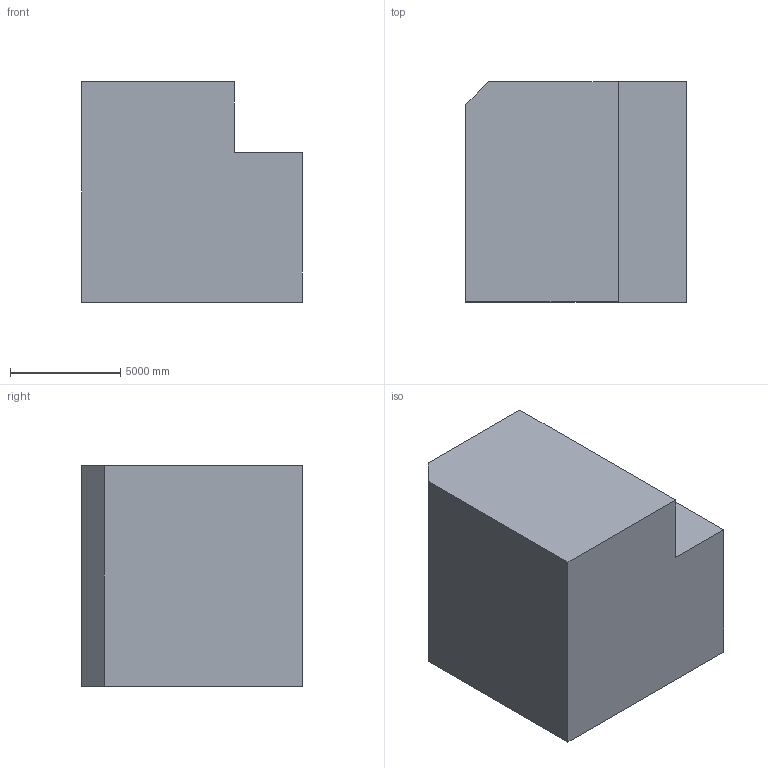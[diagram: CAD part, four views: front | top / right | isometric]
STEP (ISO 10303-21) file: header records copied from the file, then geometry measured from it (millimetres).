
FILE_DESCRIPTION (( 'STEP AP203' ), '1' );
FILE_NAME ('239.STEP', '2022-09-07T12:24:04', ( 'user' ), ( '' ), 'SwSTEP 2.0', 'SolidWorks 2021', '' );
FILE_SCHEMA (( 'CONFIG_CONTROL_DESIGN' ));
Length unit declared in the file: centimetre
Products named in the file (1): 239
Bounding box: 10000 x 10000 x 10000 mm (x, y, z)
Volume: 895861835415.3 mm3; surface area: 573150901.3 mm2
Topology: 1 solids, 1 shells, 9 faces, 21 edges, 14 vertices
Faces by surface type: plane 9
Entity records: 332 total; most frequent: CARTESIAN_POINT 45, ORIENTED_EDGE 42, DIRECTION 41, VECTOR 21, EDGE_CURVE 21, LINE 21, VERTEX_POINT 14, AXIS2_PLACEMENT_3D 10
